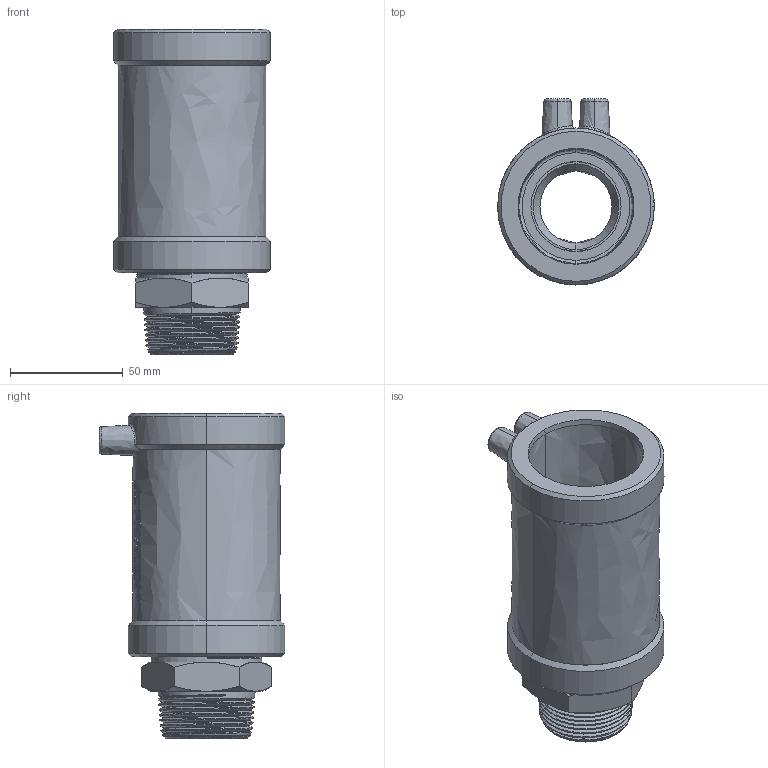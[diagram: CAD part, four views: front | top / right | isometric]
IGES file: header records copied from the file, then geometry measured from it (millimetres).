
Start section:  PTC IGES file: mun_d50_1_1-4_01.igs
Global section: file name: mun_d50_1_1-4_01.igs; native system: Pro/ENGINEER by Parametric Technology Corporation; preprocessor: 2011490; author: mtunjic; organization: Unknown; date: 20130823.150953; units: millimetre
Bounding box: 69.5 x 82.4 x 144.3 mm (x, y, z)
Surface area: 58042.7 mm2 (no closed solid volume)
Topology: 0 solids, 0 shells, 243 faces, 1240 edges, 1240 vertices
Faces by surface type: bspline 243
